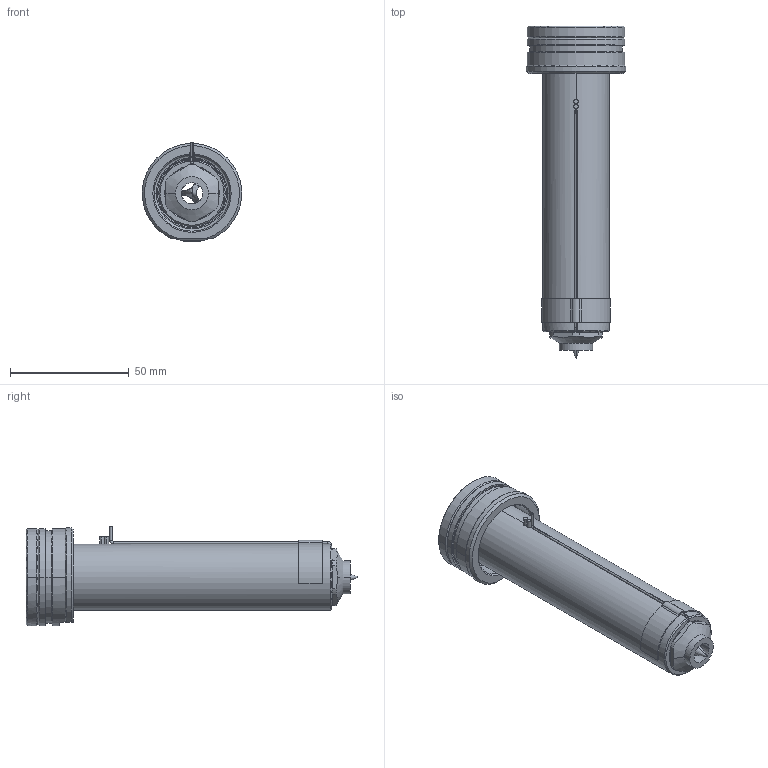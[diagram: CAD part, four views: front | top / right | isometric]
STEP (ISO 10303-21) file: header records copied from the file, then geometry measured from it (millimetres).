
FILE_DESCRIPTION((''),'2;1');
FILE_NAME('EO10_PG-BL_STD_120_SW','2024-02-19T11:08:51',('sundharh'),(''),'CREO PARAMETRIC BY PTC INC, 2023154','CREO PARAMETRIC BY PTC INC, 2023154','');
FILE_SCHEMA(('CONFIG_CONTROL_DESIGN'));
Length unit declared in the file: millimetre
Products named in the file (1): EO10_PG-BL_STD_120_SW
Bounding box: 41.85 x 140 x 42.02 mm (x, y, z)
Volume: 83371.8 mm3; surface area: 23679 mm2
Topology: 1 solids, 1 shells, 196 faces, 532 edges, 332 vertices
Faces by surface type: cylinder 78, plane 59, cone 37, torus 17, bspline 3, sphere 2
Entity records: 7272 total; most frequent: CARTESIAN_POINT 2213, DIRECTION 1102, ORIENTED_EDGE 1060, EDGE_CURVE 530, AXIS2_PLACEMENT_3D 459, VERTEX_POINT 332, CIRCLE 266, EDGE_LOOP 212
